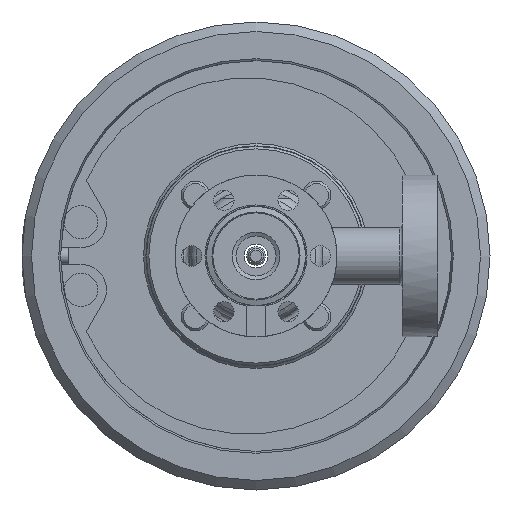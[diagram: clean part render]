
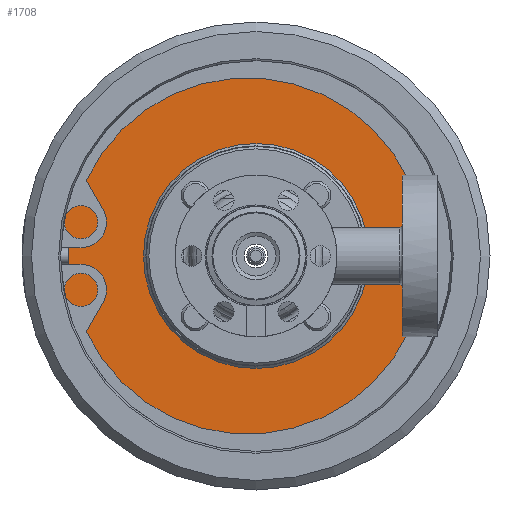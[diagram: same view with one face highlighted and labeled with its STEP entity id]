
A CAD part, front view. The second image highlights one B-rep face of the part: STEP entity #1708.
In plain terms, the highlighted planar face has unit normal (0, -1, 0) as drawn and (0, 1, 0) by its records, which use the part's own axes.
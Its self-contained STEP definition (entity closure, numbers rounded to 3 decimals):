
#1294=LINE('',#6193,#1373);
#1295=LINE('',#6196,#1374);
#1296=LINE('',#6197,#1375);
#1297=LINE('',#6199,#1376);
#1298=LINE('',#6201,#1377);
#1299=LINE('',#6202,#1378);
#1300=LINE('',#6204,#1379);
#1301=LINE('',#6206,#1380);
#1302=LINE('',#6207,#1381);
#1303=LINE('',#6209,#1382);
#1304=LINE('',#6211,#1383);
#1305=LINE('',#6212,#1384);
#1373=VECTOR('',#4868,1.);
#1374=VECTOR('',#4869,1.);
#1375=VECTOR('',#4870,1.);
#1376=VECTOR('',#4871,1.);
#1377=VECTOR('',#4872,1.);
#1378=VECTOR('',#4873,1.);
#1379=VECTOR('',#4874,1.);
#1380=VECTOR('',#4875,1.);
#1381=VECTOR('',#4876,1.);
#1382=VECTOR('',#4877,1.);
#1383=VECTOR('',#4878,1.);
#1384=VECTOR('',#4879,1.);
#1708=ADVANCED_FACE('',(#2036,#2037),#1880,.F.);
#1880=PLANE('',#4293);
#2036=FACE_BOUND('',#2405,.T.);
#2037=FACE_BOUND('',#2406,.T.);
#2405=EDGE_LOOP('',(#2894));
#2406=EDGE_LOOP('',(#2895,#2896,#2897,#2898,#2899,#2900,#2901,#2902,#2903,
#2904,#2905,#2906,#2907,#2908,#2909,#2910));
#2894=ORIENTED_EDGE('',*,*,#3743,.F.);
#2895=ORIENTED_EDGE('',*,*,#3744,.T.);
#2896=ORIENTED_EDGE('',*,*,#3745,.T.);
#2897=ORIENTED_EDGE('',*,*,#3728,.T.);
#2898=ORIENTED_EDGE('',*,*,#3746,.F.);
#2899=ORIENTED_EDGE('',*,*,#3747,.T.);
#2900=ORIENTED_EDGE('',*,*,#3748,.T.);
#2901=ORIENTED_EDGE('',*,*,#3726,.T.);
#2902=ORIENTED_EDGE('',*,*,#3749,.F.);
#2903=ORIENTED_EDGE('',*,*,#3750,.T.);
#2904=ORIENTED_EDGE('',*,*,#3751,.T.);
#2905=ORIENTED_EDGE('',*,*,#3724,.T.);
#2906=ORIENTED_EDGE('',*,*,#3752,.F.);
#2907=ORIENTED_EDGE('',*,*,#3753,.T.);
#2908=ORIENTED_EDGE('',*,*,#3754,.T.);
#2909=ORIENTED_EDGE('',*,*,#3722,.T.);
#2910=ORIENTED_EDGE('',*,*,#3755,.F.);
#3426=VERTEX_POINT('',#5999);
#3427=VERTEX_POINT('',#6000);
#3428=VERTEX_POINT('',#6002);
#3429=VERTEX_POINT('',#6028);
#3430=VERTEX_POINT('',#6030);
#3431=VERTEX_POINT('',#6056);
#3432=VERTEX_POINT('',#6058);
#3433=VERTEX_POINT('',#6084);
#3448=VERTEX_POINT('',#6192);
#3449=VERTEX_POINT('',#6194);
#3450=VERTEX_POINT('',#6195);
#3451=VERTEX_POINT('',#6198);
#3452=VERTEX_POINT('',#6200);
#3453=VERTEX_POINT('',#6203);
#3454=VERTEX_POINT('',#6205);
#3455=VERTEX_POINT('',#6208);
#3456=VERTEX_POINT('',#6210);
#3722=EDGE_CURVE('',#3428,#3426,#4014,.T.);
#3724=EDGE_CURVE('',#3430,#3429,#4015,.T.);
#3726=EDGE_CURVE('',#3432,#3431,#4016,.T.);
#3728=EDGE_CURVE('',#3427,#3433,#4017,.T.);
#3743=EDGE_CURVE('',#3448,#3448,#4028,.T.);
#3744=EDGE_CURVE('',#3449,#3450,#1294,.T.);
#3745=EDGE_CURVE('',#3450,#3427,#1295,.T.);
#3746=EDGE_CURVE('',#3451,#3433,#1296,.T.);
#3747=EDGE_CURVE('',#3451,#3452,#1297,.T.);
#3748=EDGE_CURVE('',#3452,#3432,#1298,.T.);
#3749=EDGE_CURVE('',#3453,#3431,#1299,.T.);
#3750=EDGE_CURVE('',#3453,#3454,#1300,.T.);
#3751=EDGE_CURVE('',#3454,#3430,#1301,.T.);
#3752=EDGE_CURVE('',#3455,#3429,#1302,.T.);
#3753=EDGE_CURVE('',#3455,#3456,#1303,.T.);
#3754=EDGE_CURVE('',#3456,#3428,#1304,.T.);
#3755=EDGE_CURVE('',#3449,#3426,#1305,.T.);
#4014=CIRCLE('',#4269,40.925);
#4015=CIRCLE('',#4270,40.925);
#4016=CIRCLE('',#4271,40.925);
#4017=CIRCLE('',#4272,40.925);
#4028=CIRCLE('',#4292,12.075);
#4269=AXIS2_PLACEMENT_3D('',#6001,#4820,#4821);
#4270=AXIS2_PLACEMENT_3D('',#6029,#4822,#4823);
#4271=AXIS2_PLACEMENT_3D('',#6057,#4824,#4825);
#4272=AXIS2_PLACEMENT_3D('',#6085,#4826,#4827);
#4292=AXIS2_PLACEMENT_3D('',#6191,#4866,#4867);
#4293=AXIS2_PLACEMENT_3D('',#6213,#4880,#4881);
#4820=DIRECTION('',(0.,1.,0.));
#4821=DIRECTION('',(0.,0.,1.));
#4822=DIRECTION('',(0.,1.,0.));
#4823=DIRECTION('',(0.,0.,1.));
#4824=DIRECTION('',(0.,1.,0.));
#4825=DIRECTION('',(0.,0.,1.));
#4826=DIRECTION('',(0.,1.,0.));
#4827=DIRECTION('',(0.,0.,1.));
#4866=DIRECTION('',(0.,1.,0.));
#4867=DIRECTION('',(0.,0.,1.));
#4868=DIRECTION('',(-1.,0.,0.));
#4869=DIRECTION('',(0.,0.,-1.));
#4870=DIRECTION('',(-1.,0.,0.));
#4871=DIRECTION('',(0.,0.,1.));
#4872=DIRECTION('',(-1.,0.,0.));
#4873=DIRECTION('',(0.,0.,1.));
#4874=DIRECTION('',(1.,0.,0.));
#4875=DIRECTION('',(0.,0.,1.));
#4876=DIRECTION('',(1.,0.,0.));
#4877=DIRECTION('',(0.,0.,-1.));
#4878=DIRECTION('',(1.,0.,0.));
#4879=DIRECTION('',(0.,0.,-1.));
#4880=DIRECTION('',(0.,-1.,0.));
#4881=DIRECTION('',(0.,0.,-1.));
#5999=CARTESIAN_POINT('',(1.936,8.,-40.879));
#6000=CARTESIAN_POINT('',(-1.936,8.,-40.879));
#6001=CARTESIAN_POINT('',(0.,8.,0.));
#6002=CARTESIAN_POINT('',(40.879,8.,-1.936));
#6028=CARTESIAN_POINT('',(40.879,8.,1.936));
#6029=CARTESIAN_POINT('',(0.,8.,0.));
#6030=CARTESIAN_POINT('',(1.936,8.,40.879));
#6056=CARTESIAN_POINT('',(-1.936,8.,40.879));
#6057=CARTESIAN_POINT('',(0.,8.,0.));
#6058=CARTESIAN_POINT('',(-40.879,8.,1.936));
#6084=CARTESIAN_POINT('',(-40.879,8.,-1.936));
#6085=CARTESIAN_POINT('',(0.,8.,0.));
#6191=CARTESIAN_POINT('',(0.,8.,0.));
#6192=CARTESIAN_POINT('',(0.,8.,12.075));
#6193=CARTESIAN_POINT('',(1.936,8.,-39.425));
#6194=CARTESIAN_POINT('',(1.936,8.,-39.425));
#6195=CARTESIAN_POINT('',(-1.936,8.,-39.425));
#6196=CARTESIAN_POINT('',(-1.936,8.,-39.425));
#6197=CARTESIAN_POINT('',(-39.425,8.,-1.936));
#6198=CARTESIAN_POINT('',(-39.425,8.,-1.936));
#6199=CARTESIAN_POINT('',(-39.425,8.,-1.936));
#6200=CARTESIAN_POINT('',(-39.425,8.,1.936));
#6201=CARTESIAN_POINT('',(-39.425,8.,1.936));
#6202=CARTESIAN_POINT('',(-1.936,8.,39.425));
#6203=CARTESIAN_POINT('',(-1.936,8.,39.425));
#6204=CARTESIAN_POINT('',(-1.936,8.,39.425));
#6205=CARTESIAN_POINT('',(1.936,8.,39.425));
#6206=CARTESIAN_POINT('',(1.936,8.,39.425));
#6207=CARTESIAN_POINT('',(39.425,8.,1.936));
#6208=CARTESIAN_POINT('',(39.425,8.,1.936));
#6209=CARTESIAN_POINT('',(39.425,8.,1.936));
#6210=CARTESIAN_POINT('',(39.425,8.,-1.936));
#6211=CARTESIAN_POINT('',(39.425,8.,-1.936));
#6212=CARTESIAN_POINT('',(1.936,8.,-39.425));
#6213=CARTESIAN_POINT('',(40.925,8.,0.));
